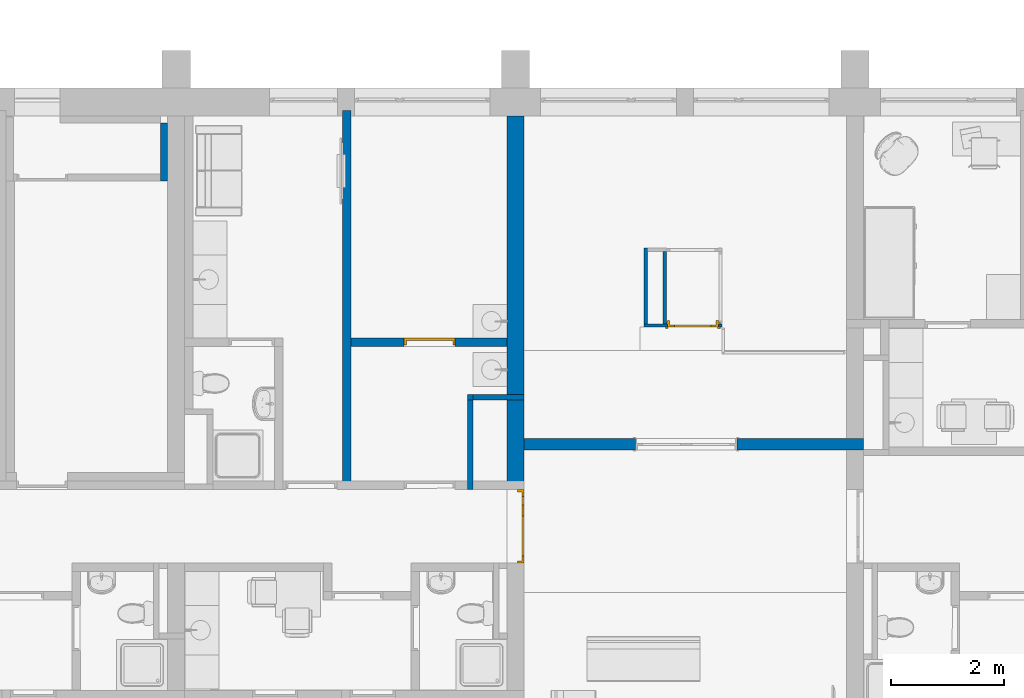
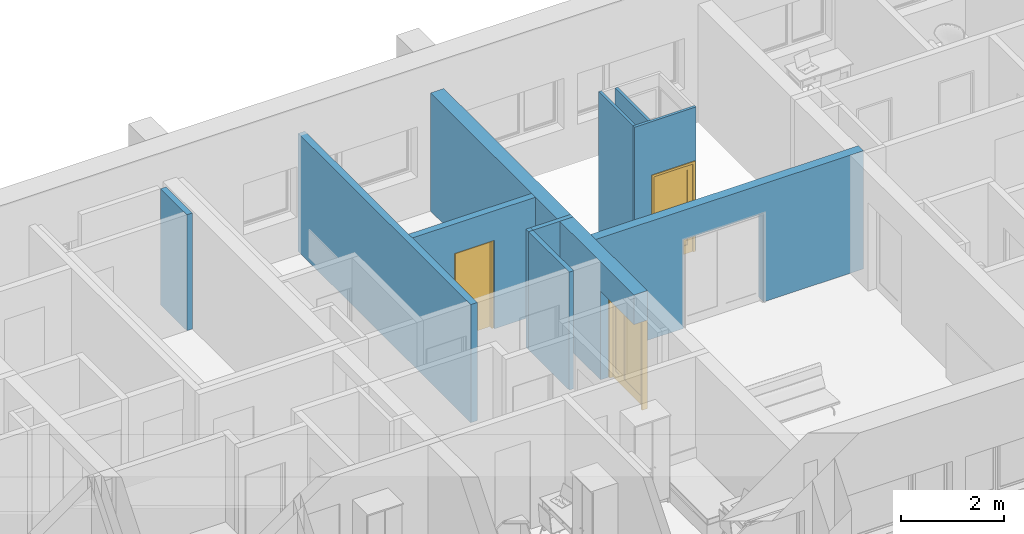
# One storey, part 14 of 152: 11 walls, 3 doors, 4 openings.
"""IFC2X3 building model written with IfcOpenShell, lengths in millimetres."""

from ifc_helpers import new_model, entity, si_unit, converted_unit, money_unit, direction, frame, origin_with_axes, place, context, subcontext, project, spatial, polyline, outline, extrude, open_shell, faceted_brep, surface_model, source, transform, mapped, material, material_list, layer, layer_set, layer_usage, type_object, element, fill, save


model = new_model("IFC2X3")

# Units and contexts
model_context = context("Model", 3, precision=1e-05, world=origin_with_axes(), true_north=direction((0.0, 1.0)))
body_context = subcontext(model_context, "Body", "Model", "MODEL_VIEW")
ifc_project = project(units=[si_unit("LENGTHUNIT", "METRE", prefix="MILLI"), si_unit("AREAUNIT", "SQUARE_METRE"), si_unit("VOLUMEUNIT", "CUBIC_METRE"), converted_unit("PLANEANGLEUNIT", "DEGREE", entity("IfcPlaneAngleMeasure", 0.0174532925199), si_unit("PLANEANGLEUNIT", "RADIAN"), dimensions=[0, 0, 0, 0, 0, 0, 0]), si_unit("SOLIDANGLEUNIT", "STERADIAN"), money_unit("USD"), converted_unit("TIMEUNIT", "Year", entity("IfcTimeMeasure", 31556926.0), si_unit("TIMEUNIT", "SECOND"), dimensions=[0, 0, 0, 0, 0, 0, 0]), si_unit("MASSUNIT", "GRAM"), si_unit("THERMODYNAMICTEMPERATUREUNIT", "DEGREE_CELSIUS"), si_unit("LUMINOUSINTENSITYUNIT", "LUMEN")], contexts=[model_context])

# Site, building, storey
site_placement = place(None, origin_with_axes())
site = spatial("IfcSite", under=ifc_project, at=site_placement, Name="Site", CompositionType="ELEMENT")
building_placement = place(site_placement, origin_with_axes())
building = spatial("IfcBuilding", under=site, at=building_placement, Name="Building", CompositionType="ELEMENT")
storey_placement = place(building_placement, frame((0.0, 0.0, 9500.0), z_axis=(0.0, 0.0, 1.0), x_axis=(1.0, 0.0, 0.0)))
storey = spatial("IfcBuildingStorey", under=building, at=storey_placement, Name="5KORRUS", CompositionType="ELEMENT", Elevation=9500.0)

# Wall, opening, door
ifc_material_1 = material(Name="UmbKipsplaat")
ifc_layer_1 = layer(ifc_material_1, 13.0, ventilated="UNKNOWN")
ifc_layer_2 = layer(ifc_material_1, 13.0, ventilated="UNKNOWN")
ifc_material_2 = material(Name="SOOJUSTUS MINERAALVILL")
ifc_layer_3 = layer(ifc_material_2, 98.0, ventilated="UNKNOWN")
ifc_layer_4 = layer(ifc_material_1, 13.0, ventilated="UNKNOWN")
ifc_layer_5 = layer(ifc_material_1, 13.0, ventilated="UNKNOWN")
ifc_layer_set_1 = layer_set([ifc_layer_1, ifc_layer_2, ifc_layer_3, ifc_layer_4, ifc_layer_5], Name="kipssein150")
ifc_layer_usage_1 = layer_usage(ifc_layer_set_1, "AXIS2", "POSITIVE", 0.0)
wall_type_1 = type_object("IfcWallType", Name="kipssein150 150", PredefinedType="NOTDEFINED")
wall_1_placement = place(storey_placement, frame((-12290.2967033, -9065.57320461, 0.0), z_axis=(0.0, 0.0, 1.0), x_axis=(-1.0, 0.0, 0.0)))
wall_1 = element("IfcWallStandardCase", 1, at=wall_1_placement, inside=storey, type_object=wall_type_1, material=ifc_layer_usage_1, Name="SS1", ObjectType="SS1", context=body_context, shape_type="SweptSolid", body=[
    extrude(outline(polyline([(0.0, 0.0), (2758.24624258, 0.0), (2758.24624258, 150.0), (0.0, 150.0), (0.0, 0.0)])), origin_with_axes(), (0.0, 0.0, 1.0), 2800.0),
])
opening_1_placement = place(wall_1_placement, frame((1368.41053385, 0.0, 0.0), z_axis=(0.0, 0.0, 1.0), x_axis=(1.0, 0.0, 0.0)))
opening_1 = element("IfcOpeningElement", 2, at=opening_1_placement, cuts=wall_1, Name="SU2-4", context=body_context, shape_type="SweptSolid", body=[
    extrude(outline(polyline([(-450.0, -2100.0), (450.0, -2100.0), (450.0, 0.0), (-450.0, 0.0), (-450.0, -2100.0)])), frame((0.0, 150.0, 0.0), z_axis=(0.0, 1.0, 0.0), x_axis=(1.0, 0.0, 0.0)), (0.0, 0.0, -1.0), 450.0),
])
ifc_material_3 = material(Name="Background")
ifc_material_list = material_list([ifc_material_3])
door_style_1 = type_object("IfcDoorStyle", Name="Door 19", ConstructionType="NOTDEFINED", OperationType="SINGLE_SWING_LEFT", ParameterTakesPrecedence=False, Sizeable=False)
shared_shape_1 = source(origin_with_axes(), body_context, "Body", "Brep", [
    faceted_brep([(410.0, -40.0, 0.0), (410.0, -115.0, 0.0), (410.0, -115.0, 2060.0), (410.0, -40.0, 2060.0), (422.0, -40.0, 0.0), (422.0, 0.0, 0.0), (450.0, 0.0, 0.0), (450.0, -115.0, 0.0), (450.0, -115.0, 2060.0), (422.0, -40.0, 2060.0), (450.0, 0.0, 2060.0), (422.0, 0.0, 2060.0)], [[[0, 1, 2, 3]], [[4, 5, 6, 7, 1, 0]], [[2, 1, 7, 8]], [[9, 3, 2, 8, 10, 11]], [[9, 4, 0, 3]], [[11, 5, 4, 9]], [[11, 10, 6, 5]], [[7, 6, 10, 8]]]),
    faceted_brep([(-422.0, -40.0, 2060.0), (-422.0, 0.0, 2060.0), (-450.0, 0.0, 2060.0), (-450.0, -115.0, 2060.0), (-410.0, -115.0, 2060.0), (-410.0, -40.0, 2060.0), (-422.0, -40.0, 0.0), (-422.0, 0.0, 0.0), (-450.0, 0.0, 0.0), (-450.0, -115.0, 0.0), (-410.0, -115.0, 0.0), (-410.0, -40.0, 0.0)], [[[0, 1, 2, 3, 4, 5]], [[0, 6, 7, 1]], [[7, 8, 2, 1]], [[3, 2, 8, 9]], [[4, 3, 9, 10]], [[5, 4, 10, 11]], [[5, 11, 6, 0]], [[6, 11, 10, 9, 8, 7]]]),
    faceted_brep([(422.0, 0.0, 2072.0), (-422.0, 0.0, 2072.0), (-422.0, 0.0, 2060.0), (-450.0, 0.0, 2060.0), (-450.0, 0.0, 2100.0), (450.0, 0.0, 2100.0), (450.0, 0.0, 2060.0), (422.0, 0.0, 2060.0), (422.0, -40.0, 2072.0), (-422.0, -40.0, 2072.0), (-422.0, -40.0, 2060.0), (-410.0, -40.0, 2060.0), (-410.0, -115.0, 2060.0), (-450.0, -115.0, 2060.0), (-450.0, -115.0, 2100.0), (450.0, -115.0, 2100.0), (450.0, -115.0, 2060.0), (422.0, -40.0, 2060.0), (410.0, -115.0, 2060.0), (410.0, -40.0, 2060.0)], [[[0, 1, 2, 3, 4, 5, 6, 7]], [[0, 8, 9, 1]], [[1, 9, 10, 2]], [[10, 11, 12, 13, 3, 2]], [[14, 4, 3, 13]], [[15, 5, 4, 14]], [[16, 6, 5, 15]], [[17, 7, 6, 16, 18, 19]], [[7, 17, 8, 0]], [[10, 9, 8, 17, 19, 11]], [[19, 18, 12, 11]], [[13, 12, 18, 16, 15, 14]]]),
    faceted_brep([(-422.0, 0.0, 0.0), (422.0, 0.0, 0.0), (422.0, -40.0, 0.0), (-422.0, -40.0, 0.0), (-422.0, 0.0, 2072.0), (422.0, 0.0, 2072.0), (422.0, -40.0, 2072.0), (-422.0, -40.0, 2072.0)], [[[0, 1, 2, 3]], [[0, 4, 5, 1]], [[1, 5, 6, 2]], [[3, 2, 6, 7]], [[4, 0, 3, 7]], [[5, 4, 7, 6]]]),
])
door_1_placement = place(opening_1_placement, frame((450.0, 0.0, 0.0), z_axis=(0.0, 0.0, 1.0), x_axis=(-1.0, 0.0, 0.0)))
door_1 = element("IfcDoor", 3, at=door_1_placement, inside=storey, type_object=door_style_1, material=ifc_material_list, Name="SU2-4", ObjectType="Abiruumi uks", OverallHeight=2100.0, OverallWidth=900.0, context=body_context, shape_type="MappedRepresentation", body=[
    mapped(shared_shape_1, transform((450.0, 0.0, 0.0))),
])
fill(opening_1, door_1)

# Wall
ifc_layer_usage_2 = layer_usage(ifc_layer_set_1, "AXIS2", "POSITIVE", -150.0)
wall_2_placement = place(storey_placement, frame((-15048.5429459, -5039.6041088, 0.0), z_axis=(0.0, 0.0, 1.0), x_axis=(0.0, -1.0, 0.0)))
element("IfcWallStandardCase", 4, at=wall_2_placement, inside=storey, type_object=wall_type_1, material=ifc_layer_usage_2, Name="SS1", ObjectType="SS1", context=body_context, shape_type="SweptSolid", body=[
    extrude(outline(polyline([(0.0, -150.0), (6699.63579061, -150.0), (6699.63579061, 0.0), (0.0, 0.0), (0.0, -150.0)])), origin_with_axes(), (0.0, 0.0, 1.0), 2800.0),
])

# Wall, opening, door
ifc_material_4 = material(Name="Olemasolevad seinad tellis, uus viimistlus")
ifc_layer_6 = layer(ifc_material_4, 300.0, ventilated="UNKNOWN")
ifc_layer_set_2 = layer_set([ifc_layer_6], Name="Olemasolevad seinad tellis, uus viimistlus  300")
ifc_layer_usage_3 = layer_usage(ifc_layer_set_2, "AXIS2", "POSITIVE", 0.0)
wall_type_2 = type_object("IfcWallType", Name="Olemasolevad seinad tellis, uus viimistlus  300", PredefinedType="NOTDEFINED")
wall_3_placement = place(storey_placement, frame((-11990.2967033, -13039.2398994, 0.0), z_axis=(0.0, 0.0, 1.0), x_axis=(0.0, 1.0, 0.0)))
wall_3 = element("IfcWallStandardCase", 5, at=wall_3_placement, inside=storey, type_object=wall_type_2, material=ifc_layer_usage_3, Name="KS1", ObjectType="KS1", context=body_context, shape_type="SweptSolid", body=[
    extrude(outline(polyline([(0.0, 0.0), (7899.63579061, 0.0), (7899.63579061, 300.0), (0.0, 300.0), (0.0, 0.0)])), origin_with_axes(), (0.0, 0.0, 1.0), 2800.0),
])
opening_2_placement = place(wall_3_placement, frame((650.0, 0.0, 0.0), z_axis=(0.0, 0.0, 1.0), x_axis=(1.0, 0.0, 0.0)))
opening_2 = element("IfcOpeningElement", 6, at=opening_2_placement, cuts=wall_3, Name="SU4-22", context=body_context, shape_type="SweptSolid", body=[
    extrude(outline(polyline([(-650.0, -2100.0), (650.0, -2100.0), (650.0, 0.0), (-650.0, 0.0), (-650.0, -2100.0)])), frame((0.0, 300.0, 0.0), z_axis=(0.0, -1.0, 0.0), x_axis=(-1.0, 0.0, 0.0)), (0.0, 0.0, 1.0), 900.0),
])
door_style_2 = type_object("IfcDoorStyle", Name="Double Door Asymmetric 19", ConstructionType="NOTDEFINED", OperationType="DOUBLE_DOOR_SINGLE_SWING", ParameterTakesPrecedence=False, Sizeable=False)
shared_shape_2 = source(origin_with_axes(), body_context, "Body", "SurfaceModel", [
    faceted_brep([(-610.0, -40.0, 0.0), (-610.0, -40.0, 2060.0), (-610.0, -115.0, 2060.0), (-610.0, -115.0, 0.0), (-622.0, -40.0, 2060.0), (-622.0, -40.0, 0.0), (-622.0, 0.0, 2060.0), (-650.0, 0.0, 2060.0), (-650.0, -115.0, 2060.0), (-650.0, -115.0, 0.0), (-650.0, 0.0, 0.0), (-622.0, 0.0, 0.0)], [[[0, 1, 2, 3]], [[4, 1, 0, 5]], [[4, 6, 7, 8, 2, 1]], [[2, 8, 9, 3]], [[5, 0, 3, 9, 10, 11]], [[6, 4, 5, 11]], [[6, 11, 10, 7]], [[9, 8, 7, 10]]]),
    faceted_brep([(622.0, -40.0, 2060.0), (610.0, -40.0, 2060.0), (610.0, -115.0, 2060.0), (650.0, -115.0, 2060.0), (650.0, 0.0, 2060.0), (622.0, 0.0, 2060.0), (622.0, -40.0, 0.0), (610.0, -40.0, 0.0), (610.0, -115.0, 0.0), (650.0, -115.0, 0.0), (650.0, 0.0, 0.0), (622.0, 0.0, 0.0)], [[[0, 1, 2, 3, 4, 5]], [[1, 0, 6, 7]], [[1, 7, 8, 2]], [[2, 8, 9, 3]], [[3, 9, 10, 4]], [[11, 5, 4, 10]], [[0, 5, 11, 6]], [[6, 11, 10, 9, 8, 7]]]),
    faceted_brep([(-622.0, 0.0, 2072.0), (-622.0, 0.0, 2060.0), (-650.0, 0.0, 2060.0), (-650.0, 0.0, 2100.0), (650.0, 0.0, 2100.0), (650.0, 0.0, 2060.0), (622.0, 0.0, 2060.0), (622.0, 0.0, 2072.0), (-622.0, -40.0, 2072.0), (-622.0, -40.0, 2060.0), (-610.0, -40.0, 2060.0), (-610.0, -115.0, 2060.0), (-650.0, -115.0, 2060.0), (-650.0, -115.0, 2100.0), (650.0, -115.0, 2100.0), (650.0, -115.0, 2060.0), (622.0, -40.0, 2060.0), (610.0, -115.0, 2060.0), (610.0, -40.0, 2060.0), (622.0, -40.0, 2072.0)], [[[0, 1, 2, 3, 4, 5, 6, 7]], [[1, 0, 8, 9]], [[9, 10, 11, 12, 2, 1]], [[12, 13, 3, 2]], [[13, 14, 4, 3]], [[14, 15, 5, 4]], [[16, 6, 5, 15, 17, 18]], [[7, 6, 16, 19]], [[0, 7, 19, 8]], [[16, 18, 10, 9, 8, 19]], [[10, 18, 17, 11]], [[15, 14, 13, 12, 11, 17]]]),
    faceted_brep([(622.0, 0.0, 200.0), (622.0, -40.0, 200.0), (522.0, -40.0, 200.0), (522.0, 0.0, 200.0), (622.0, 0.0, 1972.0), (622.0, -40.0, 1972.0), (522.0, -40.0, 1972.0), (522.0, 0.0, 1972.0)], [[[0, 1, 2, 3]], [[4, 5, 1, 0]], [[1, 5, 6, 2]], [[3, 2, 6, 7]], [[0, 3, 7, 4]], [[7, 6, 5, 4]]]),
    faceted_brep([(-278.0, 0.0, 200.0), (-278.0, -40.0, 200.0), (-278.0, -40.0, 1972.0), (-278.0, 0.0, 1972.0), (-178.0, 0.0, 200.0), (-178.0, -40.0, 200.0), (-178.0, -40.0, 1972.0), (-178.0, 0.0, 1972.0)], [[[0, 1, 2, 3]], [[4, 5, 1, 0]], [[1, 5, 6, 2]], [[3, 2, 6, 7]], [[0, 3, 7, 4]], [[7, 6, 5, 4]]]),
    faceted_brep([(622.0, 0.0, 0.0), (622.0, -40.0, 0.0), (-278.0, -40.0, 0.0), (-278.0, 0.0, 0.0), (622.0, 0.0, 200.0), (622.0, -40.0, 200.0), (522.0, -40.0, 200.0), (-178.0, -40.0, 200.0), (-278.0, -40.0, 200.0), (-278.0, 0.0, 200.0), (-178.0, 0.0, 200.0), (522.0, 0.0, 200.0)], [[[0, 1, 2, 3]], [[4, 5, 1, 0]], [[1, 5, 6, 7, 8, 2]], [[3, 2, 8, 9]], [[0, 3, 9, 10, 11, 4]], [[11, 6, 5, 4]], [[10, 7, 6, 11]], [[9, 8, 7, 10]]]),
    faceted_brep([(622.0, 0.0, 2072.0), (622.0, -40.0, 2072.0), (622.0, -40.0, 1972.0), (622.0, 0.0, 1972.0), (-278.0, 0.0, 2072.0), (-278.0, -40.0, 2072.0), (-278.0, -40.0, 1972.0), (-178.0, -40.0, 1972.0), (522.0, -40.0, 1972.0), (522.0, 0.0, 1972.0), (-178.0, 0.0, 1972.0), (-278.0, 0.0, 1972.0)], [[[0, 1, 2, 3]], [[4, 5, 1, 0]], [[1, 5, 6, 7, 8, 2]], [[3, 2, 8, 9]], [[0, 3, 9, 10, 11, 4]], [[11, 6, 5, 4]], [[10, 7, 6, 11]], [[9, 8, 7, 10]]]),
    surface_model("IfcShellBasedSurfaceModel", [(522.0, -14.0, 200.0), (-178.0, -14.0, 200.0), (-178.0, -14.0, 1972.0), (522.0, -14.0, 1972.0)], [open_shell([[[0, 1, 2, 3]]])]),
    surface_model("IfcShellBasedSurfaceModel", [(522.0, -26.0, 200.0), (522.0, -26.0, 1972.0), (-178.0, -26.0, 1972.0), (-178.0, -26.0, 200.0)], [open_shell([[[0, 1, 2, 3]]])]),
    faceted_brep([(-622.0, 0.0, 200.0), (-522.0, 0.0, 200.0), (-522.0, -40.0, 200.0), (-622.0, -40.0, 200.0), (-622.0, 0.0, 1972.0), (-522.0, 0.0, 1972.0), (-522.0, -40.0, 1972.0), (-622.0, -40.0, 1972.0)], [[[0, 1, 2, 3]], [[0, 4, 5, 1]], [[1, 5, 6, 2]], [[3, 2, 6, 7]], [[4, 0, 3, 7]], [[5, 4, 7, 6]]]),
    faceted_brep([(-278.0, 0.0, 200.0), (-278.0, 0.0, 1972.0), (-278.0, -40.0, 1972.0), (-278.0, -40.0, 200.0), (-378.0, 0.0, 200.0), (-378.0, 0.0, 1972.0), (-378.0, -40.0, 1972.0), (-378.0, -40.0, 200.0)], [[[0, 1, 2, 3]], [[0, 4, 5, 1]], [[1, 5, 6, 2]], [[3, 2, 6, 7]], [[4, 0, 3, 7]], [[5, 4, 7, 6]]]),
    faceted_brep([(-622.0, 0.0, 0.0), (-278.0, 0.0, 0.0), (-278.0, -40.0, 0.0), (-622.0, -40.0, 0.0), (-622.0, 0.0, 200.0), (-522.0, 0.0, 200.0), (-378.0, 0.0, 200.0), (-278.0, 0.0, 200.0), (-278.0, -40.0, 200.0), (-378.0, -40.0, 200.0), (-522.0, -40.0, 200.0), (-622.0, -40.0, 200.0)], [[[0, 1, 2, 3]], [[0, 4, 5, 6, 7, 1]], [[1, 7, 8, 2]], [[3, 2, 8, 9, 10, 11]], [[4, 0, 3, 11]], [[5, 4, 11, 10]], [[6, 5, 10, 9]], [[7, 6, 9, 8]]]),
    faceted_brep([(-622.0, 0.0, 2072.0), (-622.0, 0.0, 1972.0), (-622.0, -40.0, 1972.0), (-622.0, -40.0, 2072.0), (-278.0, 0.0, 2072.0), (-278.0, 0.0, 1972.0), (-378.0, 0.0, 1972.0), (-522.0, 0.0, 1972.0), (-522.0, -40.0, 1972.0), (-378.0, -40.0, 1972.0), (-278.0, -40.0, 1972.0), (-278.0, -40.0, 2072.0)], [[[0, 1, 2, 3]], [[0, 4, 5, 6, 7, 1]], [[1, 7, 8, 2]], [[3, 2, 8, 9, 10, 11]], [[4, 0, 3, 11]], [[5, 4, 11, 10]], [[6, 5, 10, 9]], [[7, 6, 9, 8]]]),
    surface_model("IfcShellBasedSurfaceModel", [(-522.0, -14.0, 200.0), (-522.0, -14.0, 1972.0), (-378.0, -14.0, 1972.0), (-378.0, -14.0, 200.0)], [open_shell([[[0, 1, 2, 3]]])]),
    surface_model("IfcShellBasedSurfaceModel", [(-522.0, -26.0, 200.0), (-378.0, -26.0, 200.0), (-378.0, -26.0, 1972.0), (-522.0, -26.0, 1972.0)], [open_shell([[[0, 1, 2, 3]]])]),
])
door_2_placement = place(opening_2_placement, frame((650.0, 0.0, 0.0), z_axis=(0.0, 0.0, 1.0), x_axis=(-1.0, 0.0, 0.0)))
door_2 = element("IfcDoor", 7, at=door_2_placement, inside=storey, type_object=door_style_2, material=ifc_material_list, Name="SU4-22", ObjectType="Trepkoja uks", OverallHeight=2100.0, OverallWidth=1300.0, context=body_context, shape_type="MappedRepresentation", body=[
    mapped(shared_shape_2, transform((650.0, 0.0, 0.0))),
])
fill(opening_2, door_2)

# Wall, opening
ifc_layer_7 = layer(ifc_material_4, 200.0, ventilated="UNKNOWN")
ifc_layer_set_3 = layer_set([ifc_layer_7], Name="Olemasolevad seinad tellis, uus viimistlus  200")
ifc_layer_usage_4 = layer_usage(ifc_layer_set_3, "AXIS2", "POSITIVE", -200.0)
wall_type_3 = type_object("IfcWallType", Name="Olemasolevad seinad tellis, uus viimistlus  200", PredefinedType="NOTDEFINED")
wall_4_placement = place(storey_placement, frame((-5990.29670331, -11039.6041088, 0.0), z_axis=(0.0, 0.0, 1.0), x_axis=(-1.0, 0.0, 0.0)))
wall_4 = element("IfcWallStandardCase", 8, at=wall_4_placement, inside=storey, type_object=wall_type_3, material=ifc_layer_usage_4, Name="KS1", ObjectType="KS1", context=body_context, shape_type="SweptSolid", body=[
    extrude(outline(polyline([(0.0, -200.0), (6000.0, -200.0), (6000.0, 0.0), (0.0, 0.0), (0.0, -200.0)])), origin_with_axes(), (0.0, 0.0, 1.0), 2800.0),
])
opening_3_placement = place(wall_4_placement, frame((3133.31707985, 0.0, 0.0), z_axis=(0.0, 0.0, 1.0), x_axis=(1.0, 0.0, 0.0)))
element("IfcOpeningElement", 9, at=opening_3_placement, cuts=wall_4, Name="SU5", context=body_context, shape_type="SweptSolid", body=[
    extrude(outline(polyline([(-900.0, 0.0), (900.0, 0.0), (900.0, 2100.0), (-900.0, 2100.0), (-900.0, 0.0)])), frame((0.0, -200.0, 0.0), z_axis=(0.0, 1.0, 0.0), x_axis=(-1.0, 0.0, 0.0)), (0.0, 0.0, 1.0), 600.0),
    extrude(outline(polyline([(-937.0, 0.0), (-937.0, -2137.0), (937.0, -2137.0), (937.0, 0.0), (-937.0, 0.0)])), frame((0.0, -200.0, 0.0), z_axis=(0.0, -1.0, 0.0), x_axis=(-1.0, 0.0, 0.0)), (0.0, 0.0, 1.0), 200.0),
    extrude(outline(polyline([(-937.0, 2137.0), (-937.0, 0.0), (937.0, 0.0), (937.0, 2137.0), (-937.0, 2137.0)])), frame((0.0, 0.0, 0.0), z_axis=(0.0, 1.0, 0.0), x_axis=(-1.0, 0.0, 0.0)), (0.0, 0.0, 1.0), 200.0),
])

# Walls
ifc_material_5 = material(Name="krohv")
ifc_layer_8 = layer(ifc_material_5, 2.0, ventilated="UNKNOWN")
ifc_layer_9 = layer(ifc_material_5, 10.0, ventilated="UNKNOWN")
ifc_material_6 = material(Name="Kergplokk")
ifc_layer_10 = layer(ifc_material_6, 76.0, ventilated="UNKNOWN")
ifc_layer_11 = layer(ifc_material_5, 10.0, ventilated="UNKNOWN")
ifc_layer_12 = layer(ifc_material_5, 2.0, ventilated="UNKNOWN")
ifc_layer_set_4 = layer_set([ifc_layer_8, ifc_layer_9, ifc_layer_10, ifc_layer_11, ifc_layer_12], Name="Kergplokk Bauroc 100")
ifc_layer_usage_5 = layer_usage(ifc_layer_set_4, "AXIS2", "POSITIVE", 0.0)
wall_type_4 = type_object("IfcWallType", Name="Kergplokk Bauroc 100 100", PredefinedType="NOTDEFINED")
wall_5_placement = place(storey_placement, frame((-12890.2967033, -11739.2398994, 0.0), z_axis=(0.0, 0.0, 1.0), x_axis=(0.0, 1.0, 0.0)))
element("IfcWallStandardCase", 10, at=wall_5_placement, inside=storey, type_object=wall_type_4, material=ifc_layer_usage_5, Name="SS2", ObjectType="SS2", context=body_context, shape_type="SweptSolid", body=[
    extrude(outline(polyline([(0.0, 0.0), (1680.0, 0.0), (1680.0, 100.0), (0.0, 100.0), (0.0, 0.0)])), origin_with_axes(), (0.0, 0.0, 1.0), 2800.0),
])
ifc_layer_usage_6 = layer_usage(ifc_layer_set_4, "AXIS2", "POSITIVE", 0.0)
wall_6_placement = place(storey_placement, frame((-11990.2967033, -10059.2398994, 0.0), z_axis=(0.0, 0.0, 1.0), x_axis=(-1.0, 0.0, 0.0)))
element("IfcWallStandardCase", 11, at=wall_6_placement, inside=storey, type_object=wall_type_4, material=ifc_layer_usage_6, Name="SS2", ObjectType="SS2", context=body_context, shape_type="SweptSolid", body=[
    extrude(outline(polyline([(0.0, 0.0), (900.0, 0.0), (900.0, 100.0), (0.0, 100.0), (0.0, 0.0)])), origin_with_axes(), (0.0, 0.0, 1.0), 2800.0),
])
ifc_layer_usage_7 = layer_usage(ifc_layer_set_4, "AXIS2", "POSITIVE", 0.0)
wall_7_placement = place(storey_placement, frame((-11990.2967033, -10059.2398994, 0.0), z_axis=(0.0, 0.0, 1.0), x_axis=(-1.0, 0.0, 0.0)))
element("IfcWallStandardCase", 12, at=wall_7_placement, inside=storey, type_object=wall_type_4, material=ifc_layer_usage_7, Name="SW - 027", ObjectType="SS2", context=body_context, shape_type="SweptSolid", body=[
    extrude(outline(polyline([(0.0, 0.0), (1000.0, 0.0), (1000.0, 100.0), (0.0, 100.0), (0.0, 0.0)])), origin_with_axes(), (0.0, 0.0, 1.0), 2800.0),
])
ifc_material_7 = material(Name="Terasprofiil")
ifc_layer_13 = layer(ifc_material_7, 60.0, ventilated="UNKNOWN")
ifc_layer_set_5 = layer_set([ifc_layer_13], Name="Terasprofiil 60")
ifc_layer_usage_8 = layer_usage(ifc_layer_set_5, "AXIS2", "POSITIVE", -60.0)
wall_type_5 = type_object("IfcWallType", Name="Terasprofiil 60", PredefinedType="NOTDEFINED")
wall_8_placement = place(storey_placement, frame((-9469.40654634, -7530.64352695, 0.0), z_axis=(0.0, 0.0, 1.0), x_axis=(0.0, -1.0, 0.0)))
element("IfcWallStandardCase", 13, at=wall_8_placement, inside=storey, type_object=wall_type_5, material=ifc_layer_usage_8, Name="LS1", ObjectType="Lifti sein", context=body_context, shape_type="SweptSolid", body=[
    extrude(outline(polyline([(0.0, -60.0), (1280.0, -60.0), (1280.0, 0.0), (0.0, 0.0), (0.0, -60.0)])), origin_with_axes(), (0.0, 0.0, 1.0), 3400.0),
])

# Wall, opening, door
ifc_layer_usage_9 = layer_usage(ifc_layer_set_5, "AXIS2", "POSITIVE", -60.0)
wall_9_placement = place(storey_placement, frame((-8491.93119318, -8870.64352695, 0.0), z_axis=(0.0, 0.0, 1.0), x_axis=(-1.0, 0.0, 0.0)))
wall_9 = element("IfcWallStandardCase", 14, at=wall_9_placement, inside=storey, type_object=wall_type_5, material=ifc_layer_usage_9, Name="LS1", ObjectType="Lifti sein", context=body_context, shape_type="SweptSolid", body=[
    extrude(outline(polyline([(0.0, -60.0), (1377.47535316, -60.0), (1377.47535316, 0.0), (0.0, 0.0), (0.0, -60.0)])), origin_with_axes(), (0.0, 0.0, 1.0), 3400.0),
])
opening_4_placement = place(wall_9_placement, frame((512.692164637, 0.0, 0.0), z_axis=(0.0, 0.0, 1.0), x_axis=(1.0, 0.0, 0.0)))
opening_4 = element("IfcOpeningElement", 15, at=opening_4_placement, cuts=wall_9, Name="Liftiuks", context=body_context, shape_type="SweptSolid", body=[
    extrude(outline(polyline([(-450.0, -2100.0), (450.0, -2100.0), (450.0, 0.0), (-450.0, 0.0), (-450.0, -2100.0)])), frame((0.0, -60.0, 0.0), z_axis=(0.0, 1.0, 0.0), x_axis=(1.0, 0.0, 0.0)), (0.0, 0.0, 1.0), 180.0),
    extrude(outline(polyline([(-487.0, 2137.0), (-487.0, 0.0), (487.0, 0.0), (487.0, 2137.0), (-487.0, 2137.0)])), frame((0.0, -60.0, 0.0), z_axis=(0.0, -1.0, 0.0), x_axis=(1.0, 0.0, 0.0)), (0.0, 0.0, 1.0), 60.0),
    extrude(outline(polyline([(-487.0, 0.0), (-487.0, -2137.0), (487.0, -2137.0), (487.0, 0.0), (-487.0, 0.0)])), frame((0.0, 0.0, 0.0), z_axis=(0.0, 1.0, 0.0), x_axis=(1.0, 0.0, 0.0)), (0.0, 0.0, 1.0), 60.0),
])
door_style_3 = type_object("IfcDoorStyle", Name="Door 19", ConstructionType="NOTDEFINED", OperationType="SINGLE_SWING_RIGHT", ParameterTakesPrecedence=False, Sizeable=False)
shared_shape_3 = source(origin_with_axes(), body_context, "Body", "SurfaceModel", [
    faceted_brep([(-487.0, -79.0, 0.0), (-487.0, -60.0, 0.0), (-437.0, -60.0, 0.0), (-437.0, -79.0, 0.0), (-487.0, -79.0, 2137.0), (-487.0, -60.0, 2137.0), (-437.0, -60.0, 2087.0), (-437.0, -79.0, 2087.0)], [[[0, 1, 2, 3]], [[4, 5, 1, 0]], [[1, 5, 6, 2]], [[3, 2, 6, 7]], [[0, 3, 7, 4]], [[7, 6, 5, 4]]]),
    faceted_brep([(487.0, -79.0, 2137.0), (487.0, -60.0, 2137.0), (437.0, -60.0, 2087.0), (437.0, -79.0, 2087.0), (487.0, -79.0, 0.0), (487.0, -60.0, 0.0), (437.0, -60.0, 0.0), (437.0, -79.0, 0.0)], [[[0, 1, 2, 3]], [[4, 5, 1, 0]], [[1, 5, 6, 2]], [[3, 2, 6, 7]], [[0, 3, 7, 4]], [[7, 6, 5, 4]]]),
    faceted_brep([(-487.0, -79.0, 2137.0), (-487.0, -60.0, 2137.0), (-437.0, -60.0, 2087.0), (-437.0, -79.0, 2087.0), (487.0, -79.0, 2137.0), (487.0, -60.0, 2137.0), (437.0, -60.0, 2087.0), (437.0, -79.0, 2087.0)], [[[0, 1, 2, 3]], [[4, 5, 1, 0]], [[1, 5, 6, 2]], [[3, 2, 6, 7]], [[0, 3, 7, 4]], [[7, 6, 5, 4]]]),
    faceted_brep([(-487.0, 19.0, 0.0), (-437.0, 19.0, 0.0), (-437.0, 0.0, 0.0), (-487.0, 0.0, 0.0), (-487.0, 19.0, 2137.0), (-437.0, 19.0, 2087.0), (-437.0, 0.0, 2087.0), (-487.0, 0.0, 2137.0)], [[[0, 1, 2, 3]], [[0, 4, 5, 1]], [[1, 5, 6, 2]], [[3, 2, 6, 7]], [[4, 0, 3, 7]], [[5, 4, 7, 6]]]),
    faceted_brep([(487.0, 19.0, 2137.0), (437.0, 19.0, 2087.0), (437.0, 0.0, 2087.0), (487.0, 0.0, 2137.0), (487.0, 19.0, 0.0), (437.0, 19.0, 0.0), (437.0, 0.0, 0.0), (487.0, 0.0, 0.0)], [[[0, 1, 2, 3]], [[0, 4, 5, 1]], [[1, 5, 6, 2]], [[3, 2, 6, 7]], [[4, 0, 3, 7]], [[5, 4, 7, 6]]]),
    faceted_brep([(-487.0, 19.0, 2137.0), (-437.0, 19.0, 2087.0), (-437.0, 0.0, 2087.0), (-487.0, 0.0, 2137.0), (487.0, 19.0, 2137.0), (437.0, 19.0, 2087.0), (437.0, 0.0, 2087.0), (487.0, 0.0, 2137.0)], [[[0, 1, 2, 3]], [[0, 4, 5, 1]], [[1, 5, 6, 2]], [[3, 2, 6, 7]], [[4, 0, 3, 7]], [[5, 4, 7, 6]]]),
    faceted_brep([(-410.0, -40.0, 0.0), (-410.0, -40.0, 2060.0), (-410.0, -115.0, 2060.0), (-410.0, -115.0, 0.0), (-422.0, -40.0, 2060.0), (-422.0, -40.0, 0.0), (-422.0, 0.0, 2060.0), (-450.0, 0.0, 2060.0), (-450.0, -115.0, 2060.0), (-450.0, -115.0, 0.0), (-450.0, 0.0, 0.0), (-422.0, 0.0, 0.0)], [[[0, 1, 2, 3]], [[4, 1, 0, 5]], [[4, 6, 7, 8, 2, 1]], [[2, 8, 9, 3]], [[5, 0, 3, 9, 10, 11]], [[6, 4, 5, 11]], [[6, 11, 10, 7]], [[9, 8, 7, 10]]]),
    faceted_brep([(422.0, -40.0, 2060.0), (410.0, -40.0, 2060.0), (410.0, -115.0, 2060.0), (450.0, -115.0, 2060.0), (450.0, 0.0, 2060.0), (422.0, 0.0, 2060.0), (422.0, -40.0, 0.0), (410.0, -40.0, 0.0), (410.0, -115.0, 0.0), (450.0, -115.0, 0.0), (450.0, 0.0, 0.0), (422.0, 0.0, 0.0)], [[[0, 1, 2, 3, 4, 5]], [[1, 0, 6, 7]], [[1, 7, 8, 2]], [[2, 8, 9, 3]], [[3, 9, 10, 4]], [[11, 5, 4, 10]], [[0, 5, 11, 6]], [[6, 11, 10, 9, 8, 7]]]),
    faceted_brep([(-422.0, 0.0, 2072.0), (-422.0, 0.0, 2060.0), (-450.0, 0.0, 2060.0), (-450.0, 0.0, 2100.0), (450.0, 0.0, 2100.0), (450.0, 0.0, 2060.0), (422.0, 0.0, 2060.0), (422.0, 0.0, 2072.0), (-422.0, -40.0, 2072.0), (-422.0, -40.0, 2060.0), (-410.0, -40.0, 2060.0), (-410.0, -115.0, 2060.0), (-450.0, -115.0, 2060.0), (-450.0, -115.0, 2100.0), (450.0, -115.0, 2100.0), (450.0, -115.0, 2060.0), (422.0, -40.0, 2060.0), (410.0, -115.0, 2060.0), (410.0, -40.0, 2060.0), (422.0, -40.0, 2072.0)], [[[0, 1, 2, 3, 4, 5, 6, 7]], [[1, 0, 8, 9]], [[9, 10, 11, 12, 2, 1]], [[12, 13, 3, 2]], [[13, 14, 4, 3]], [[14, 15, 5, 4]], [[16, 6, 5, 15, 17, 18]], [[7, 6, 16, 19]], [[0, 7, 19, 8]], [[16, 18, 10, 9, 8, 19]], [[10, 18, 17, 11]], [[15, 14, 13, 12, 11, 17]]]),
    faceted_brep([(422.0, 0.0, 200.0), (422.0, -40.0, 200.0), (322.0, -40.0, 200.0), (322.0, 0.0, 200.0), (422.0, 0.0, 1972.0), (422.0, -40.0, 1972.0), (322.0, -40.0, 1972.0), (322.0, 0.0, 1972.0)], [[[0, 1, 2, 3]], [[4, 5, 1, 0]], [[1, 5, 6, 2]], [[3, 2, 6, 7]], [[0, 3, 7, 4]], [[7, 6, 5, 4]]]),
    faceted_brep([(-422.0, 0.0, 200.0), (-422.0, -40.0, 200.0), (-422.0, -40.0, 1972.0), (-422.0, 0.0, 1972.0), (-322.0, 0.0, 200.0), (-322.0, -40.0, 200.0), (-322.0, -40.0, 1972.0), (-322.0, 0.0, 1972.0)], [[[0, 1, 2, 3]], [[4, 5, 1, 0]], [[1, 5, 6, 2]], [[3, 2, 6, 7]], [[0, 3, 7, 4]], [[7, 6, 5, 4]]]),
    faceted_brep([(422.0, 0.0, 0.0), (422.0, -40.0, 0.0), (-422.0, -40.0, 0.0), (-422.0, 0.0, 0.0), (422.0, 0.0, 200.0), (422.0, -40.0, 200.0), (322.0, -40.0, 200.0), (-322.0, -40.0, 200.0), (-422.0, -40.0, 200.0), (-422.0, 0.0, 200.0), (-322.0, 0.0, 200.0), (322.0, 0.0, 200.0)], [[[0, 1, 2, 3]], [[4, 5, 1, 0]], [[1, 5, 6, 7, 8, 2]], [[3, 2, 8, 9]], [[0, 3, 9, 10, 11, 4]], [[11, 6, 5, 4]], [[10, 7, 6, 11]], [[9, 8, 7, 10]]]),
    faceted_brep([(422.0, 0.0, 2072.0), (422.0, -40.0, 2072.0), (422.0, -40.0, 1972.0), (422.0, 0.0, 1972.0), (-422.0, 0.0, 2072.0), (-422.0, -40.0, 2072.0), (-422.0, -40.0, 1972.0), (-322.0, -40.0, 1972.0), (322.0, -40.0, 1972.0), (322.0, 0.0, 1972.0), (-322.0, 0.0, 1972.0), (-422.0, 0.0, 1972.0)], [[[0, 1, 2, 3]], [[4, 5, 1, 0]], [[1, 5, 6, 7, 8, 2]], [[3, 2, 8, 9]], [[0, 3, 9, 10, 11, 4]], [[11, 6, 5, 4]], [[10, 7, 6, 11]], [[9, 8, 7, 10]]]),
    surface_model("IfcShellBasedSurfaceModel", [(322.0, -14.0, 200.0), (-322.0, -14.0, 200.0), (-322.0, -14.0, 1972.0), (322.0, -14.0, 1972.0)], [open_shell([[[0, 1, 2, 3]]])]),
    surface_model("IfcShellBasedSurfaceModel", [(322.0, -26.0, 200.0), (322.0, -26.0, 1972.0), (-322.0, -26.0, 1972.0), (-322.0, -26.0, 200.0)], [open_shell([[[0, 1, 2, 3]]])]),
])
door_3_placement = place(opening_4_placement, frame((-450.0, 0.0, 0.0), z_axis=(0.0, 0.0, 1.0), x_axis=(1.0, 0.0, 0.0)))
door_3 = element("IfcDoor", 16, at=door_3_placement, inside=storey, type_object=door_style_3, material=ifc_material_list, Name="Liftiuks", ObjectType="door", OverallHeight=2100.0, OverallWidth=900.0, context=body_context, shape_type="MappedRepresentation", body=[
    mapped(shared_shape_3, transform((450.0, 0.0, 0.0))),
])
fill(opening_4, door_3)

# Walls
ifc_layer_usage_10 = layer_usage(ifc_layer_set_5, "AXIS2", "POSITIVE", 0.0)
wall_10_placement = place(storey_placement, frame((-9869.40654634, -7470.64352695, 0.0), z_axis=(0.0, 0.0, 1.0), x_axis=(0.0, -1.0, 0.0)))
element("IfcWallStandardCase", 17, at=wall_10_placement, inside=storey, type_object=wall_type_5, material=ifc_layer_usage_10, Name="Lifti sein", ObjectType="Lifti sein", context=body_context, shape_type="SweptSolid", body=[
    extrude(outline(polyline([(0.0, 0.0), (1400.0, 0.0), (1400.0, 60.0), (0.0, 60.0), (0.0, 0.0)])), origin_with_axes(), (0.0, 0.0, 1.0), 3400.0),
])
ifc_material_8 = material(Name="Teras")
ifc_layer_14 = layer(ifc_material_8, 12.5, ventilated="UNKNOWN")
ifc_material_9 = material(Name="Kõva mineraalvill")
ifc_layer_15 = layer(ifc_material_9, 100.0, ventilated="UNKNOWN")
ifc_layer_16 = layer(ifc_material_8, 12.5, ventilated="UNKNOWN")
ifc_layer_set_6 = layer_set([ifc_layer_14, ifc_layer_15, ifc_layer_16], Name="Plekkkattega soojustatud paneel")
ifc_layer_usage_11 = layer_usage(ifc_layer_set_6, "AXIS2", "POSITIVE", -125.0)
wall_type_6 = type_object("IfcWallType", Name="Plekkkattega soojustatud paneel 125", PredefinedType="NOTDEFINED")
wall_11_placement = place(storey_placement, frame((-18415.2967033, -6283.6041088, 0.0), z_axis=(0.0, 0.0, 1.0), x_axis=(0.0, 1.0, 0.0)))
element("IfcWallStandardCase", 18, at=wall_11_placement, inside=storey, type_object=wall_type_6, material=ifc_layer_usage_11, Name="SS3", ObjectType="SS3", context=body_context, shape_type="SweptSolid", body=[
    extrude(outline(polyline([(0.0, -125.0), (1019.0, -125.0), (1019.0, 0.0), (0.0, 0.0), (0.0, -125.0)])), origin_with_axes(), (0.0, 0.0, 1.0), 2750.0),
])

save(model, "model.ifc")
